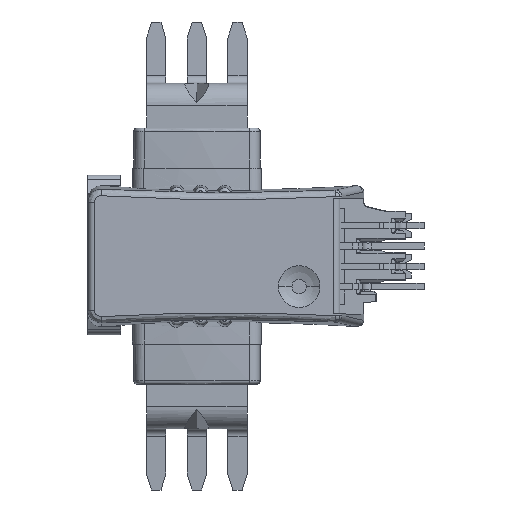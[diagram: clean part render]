
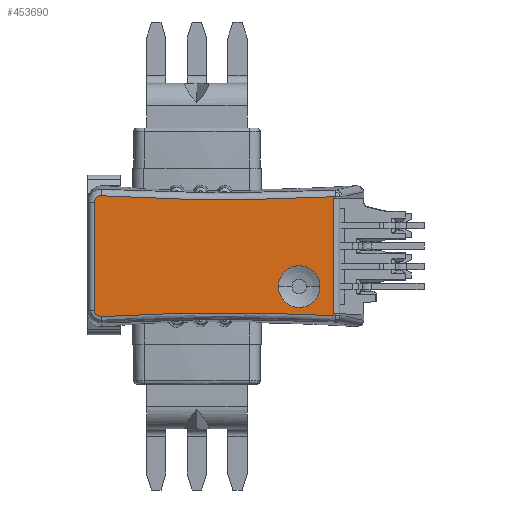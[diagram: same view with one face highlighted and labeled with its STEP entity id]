
A CAD part, left-side view. The second image highlights one B-rep face of the part: STEP entity #453690.
In plain terms, the highlighted planar face has unit normal (-1, -0.009, 0).
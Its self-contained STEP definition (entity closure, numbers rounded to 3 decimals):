
#53710=CARTESIAN_POINT('',(46.16,19.706,
2.489));
#53720=VERTEX_POINT('',#53710);
#53910=CARTESIAN_POINT('',(46.164,19.281,
2.889));
#53920=VERTEX_POINT('',#53910);
#53950=CARTESIAN_POINT('',(46.164,19.305,
2.489));
#53960=DIRECTION('',(1.,0.009,
0.));
#53970=DIRECTION('',(0.009,-1.,0.));
#53980=AXIS2_PLACEMENT_3D('',#53950,#53960,#53970);
#53990=CIRCLE('',#53980,0.4);
#54000=EDGE_CURVE('',#53720,#53920,#53990,.T.);
#113450=CARTESIAN_POINT('',(46.292,4.61,
-4.607));
#113460=DIRECTION('',(0.,0.,1.));
#113470=VECTOR('',#113460,1.);
#113480=LINE('',#113450,#113470);
#113490=CARTESIAN_POINT('',(46.292,4.61,
-4.607));
#113500=VERTEX_POINT('',#113490);
#113510=CARTESIAN_POINT('',(46.292,4.61,
-4.493));
#113520=VERTEX_POINT('',#113510);
#113530=EDGE_CURVE('',#113500,#113520,#113480,.T.);
#121000=CARTESIAN_POINT('',(46.292,4.61,
2.718));
#121010=VERTEX_POINT('',#121000);
#121250=CARTESIAN_POINT('',(46.291,4.746,
2.716));
#121260=VERTEX_POINT('',#121250);
#121290=CARTESIAN_POINT('',(46.332,0.,2.796));
#121300=DIRECTION('',(-0.009,1.,
-0.017));
#121310=VECTOR('',#121300,1.);
#121320=LINE('',#121290,#121310);
#121330=EDGE_CURVE('',#121010,#121260,#121320,.T.);
#162240=CARTESIAN_POINT('',(46.291,4.746,
-4.491));
#162250=VERTEX_POINT('',#162240);
#162370=CARTESIAN_POINT('',(46.332,0.,-4.573));
#162380=DIRECTION('',(0.009,-1.,
-0.017));
#162390=VECTOR('',#162380,1.);
#162400=LINE('',#162370,#162390);
#162410=EDGE_CURVE('',#162250,#113520,#162400,.T.);
#200120=CARTESIAN_POINT('',(46.292,4.61,
2.832));
#200130=VERTEX_POINT('',#200120);
#200160=CARTESIAN_POINT('',(46.233,11.439,
133.065));
#200170=DIRECTION('',(-1.,-0.009,
0.));
#200180=DIRECTION('',(-0.009,1.,0.));
#200190=AXIS2_PLACEMENT_3D('',#200160,#200170,#200180);
#200200=CIRCLE('',#200190,130.412);
#200210=EDGE_CURVE('',#53920,#200130,#200200,.T.);
#255840=CARTESIAN_POINT('',(46.291,4.746,
-4.491));
#255850=DIRECTION('',(0.,0.,1.));
#255860=VECTOR('',#255850,1.);
#255870=LINE('',#255840,#255860);
#255880=EDGE_CURVE('',#162250,#121260,#255870,.T.);
#262770=CARTESIAN_POINT('',(46.292,4.61,
2.832));
#262780=DIRECTION('',(0.,0.,-1.));
#262790=VECTOR('',#262780,1.);
#262800=LINE('',#262770,#262790);
#262810=EDGE_CURVE('',#200130,#121010,#262800,.T.);
#263000=CARTESIAN_POINT('',(46.16,19.706,
-4.264));
#263010=DIRECTION('',(0.,0.,1.));
#263020=VECTOR('',#263010,1.);
#263030=LINE('',#263000,#263020);
#263040=CARTESIAN_POINT('',(46.16,19.706,
-4.264));
#263050=VERTEX_POINT('',#263040);
#263060=EDGE_CURVE('',#263050,#53720,#263030,.T.);
#263670=CARTESIAN_POINT('',(46.164,19.282,
-4.664));
#263680=VERTEX_POINT('',#263670);
#263710=CARTESIAN_POINT('',(46.233,11.439,
-134.837));
#263720=DIRECTION('',(-1.,-0.009,
0.));
#263730=DIRECTION('',(-0.009,1.,0.));
#263740=AXIS2_PLACEMENT_3D('',#263710,#263720,#263730);
#263750=CIRCLE('',#263740,130.41);
#263760=EDGE_CURVE('',#113500,#263680,#263750,.T.);
#264650=CARTESIAN_POINT('',(46.164,19.306,
-4.264));
#264660=DIRECTION('',(1.,0.009,
0.));
#264670=DIRECTION('',(0.009,-1.,0.));
#264680=AXIS2_PLACEMENT_3D('',#264650,#264660,#264670);
#264690=CIRCLE('',#264680,0.4);
#264700=EDGE_CURVE('',#263680,#263050,#264690,.T.);
#453330=CARTESIAN_POINT('',(46.16,19.706,
-4.665));
#453340=DIRECTION('',(-1.,-0.009,-0.));
#453350=DIRECTION('',(-0.009,1.,0.));
#453360=AXIS2_PLACEMENT_3D('',#453330,#453340,#453350);
#453370=PLANE('',#453360);
#453380=ORIENTED_EDGE('',*,*,#264700,.F.);
#453390=ORIENTED_EDGE('',*,*,#263060,.F.);
#453400=ORIENTED_EDGE('',*,*,#54000,.F.);
#453410=ORIENTED_EDGE('',*,*,#200210,.F.);
#453420=ORIENTED_EDGE('',*,*,#262810,.F.);
#453430=ORIENTED_EDGE('',*,*,#121330,.F.);
#453440=ORIENTED_EDGE('',*,*,#255880,.T.);
#453450=ORIENTED_EDGE('',*,*,#162410,.F.);
#453460=ORIENTED_EDGE('',*,*,#113530,.T.);
#453470=ORIENTED_EDGE('',*,*,#263760,.F.);
#453480=EDGE_LOOP('',(#453470,#453460,#453450,#453440,#453430,#453420,
#453410,#453400,#453390,#453380));
#453490=FACE_OUTER_BOUND('',#453480,.T.);
#453500=CARTESIAN_POINT('',(46.272,6.9,
-2.787));
#453510=DIRECTION('',(-1.,-0.009,0.));
#453520=DIRECTION('',(-0.009,1.,0.));
#453530=AXIS2_PLACEMENT_3D('',#453500,#453510,#453520);
#453540=CIRCLE('',#453530,1.301);
#453550=CARTESIAN_POINT('',(46.272,6.9,
-4.088));
#453560=VERTEX_POINT('',#453550);
#453570=CARTESIAN_POINT('',(46.284,5.599,
-2.787));
#453580=VERTEX_POINT('',#453570);
#453590=EDGE_CURVE('',#453560,#453580,#453540,.T.);
#453600=ORIENTED_EDGE('',*,*,#453590,.F.);
#453610=CARTESIAN_POINT('',(46.261,8.2,
-2.787));
#453620=VERTEX_POINT('',#453610);
#453630=EDGE_CURVE('',#453580,#453620,#453540,.T.);
#453640=ORIENTED_EDGE('',*,*,#453630,.F.);
#453650=EDGE_CURVE('',#453620,#453560,#453540,.T.);
#453660=ORIENTED_EDGE('',*,*,#453650,.F.);
#453670=EDGE_LOOP('',(#453660,#453640,#453600));
#453680=FACE_BOUND('',#453670,.T.);
#453690=ADVANCED_FACE('',(#453490,#453680),#453370,.T.);
